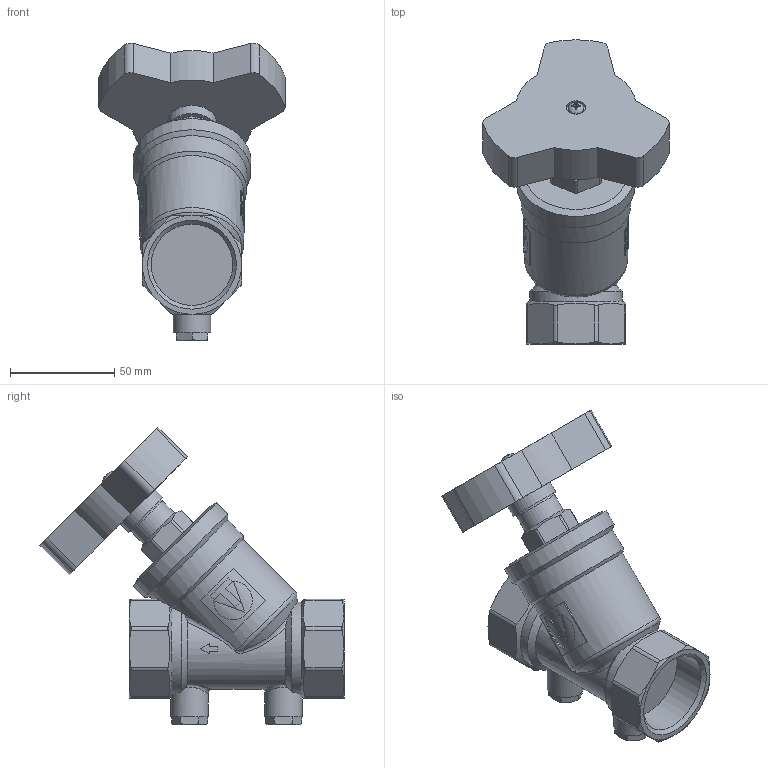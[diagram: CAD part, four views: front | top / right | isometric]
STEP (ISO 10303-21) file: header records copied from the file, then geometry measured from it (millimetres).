
FILE_DESCRIPTION(('STEP AP203'), '1');
FILE_NAME('覆.493116.005.000 捘 - VT.054.N.07', '2024-09-13T13:06:46', ('Boss'), (''), 'C3D Converter', 'C3D Toolkit', '');
FILE_SCHEMA(('CONFIG_CONTROL_DESIGN'));
Length unit declared in the file: millimetre
Products named in the file (3): ВР.493116.005.000 СБ
Assembly tree (2 placements, depth 2):
  ВР.493116.005.000 СБ
    (unnamed)
    (unnamed)
Bounding box: 89.31 x 145.71 x 142.7 mm (x, y, z)
Volume: 319466.3 mm3; surface area: 50803.6 mm2
Topology: 3 solids, 3 shells, 455 faces, 1215 edges, 795 vertices
Faces by surface type: plane 175, extrusion 141, cylinder 82, cone 45, bspline 9, torus 3
Full cylindrical faces by diameter (mm): 3.242 x1, 4 x1, 4.5 x1, 7.5 x1, 9.2 x1, 10 x1, 10.5 x1, 17.3 x1, 18 x2, 21.1 x1, 23.5 x1, 38.953 x2, 52.5 x1, 56.5 x1
Entity records: 25422 total; most frequent: CARTESIAN_POINT 15083, ORIENTED_EDGE 2366, DIRECTION 1574, EDGE_CURVE 1183, VERTEX_POINT 793, B_SPLINE_CURVE_WITH_KNOTS 623, VECTOR 598, EDGE_LOOP 512
